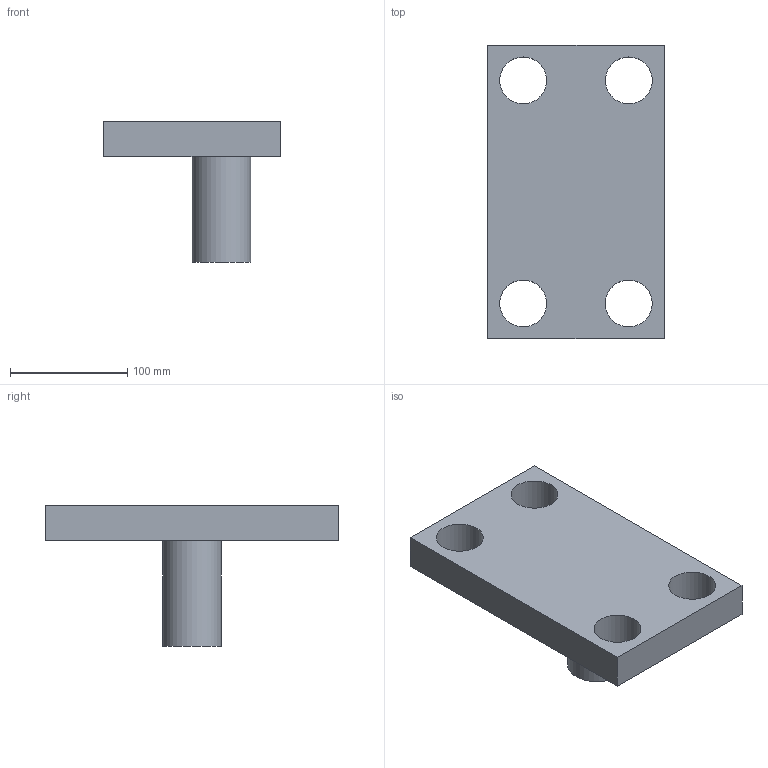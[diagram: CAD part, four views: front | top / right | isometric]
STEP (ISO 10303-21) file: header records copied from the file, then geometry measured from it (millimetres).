
FILE_DESCRIPTION(/* description */ (''),/* implementation_level */ '2;1');
FILE_NAME(/* name */ 'Top-plate',/* time_stamp */ '2005-04-08T17:19:43+06:00',/* author */ (''),/* organization */ (''),/* preprocessor_version */ 'ST-DEVELOPER v9',/* originating_system */ 'UGS - NX 3.0',/* authorisation */ '');
FILE_SCHEMA (('CONFIG_CONTROL_DESIGN'));
Length unit declared in the file: millimetre
Products named in the file (1): CADCF329m9nh
Bounding box: 150 x 250 x 120 mm (x, y, z)
Volume: 1150918.1 mm3; surface area: 118163.7 mm2
Topology: 1 solids, 1 shells, 12 faces, 28 edges, 19 vertices
Faces by surface type: plane 7, cylinder 5
Full cylindrical faces by diameter (mm): 40 x4, 50 x1
Entity records: 418 total; most frequent: DIRECTION 58, CARTESIAN_POINT 53, ORIENTED_EDGE 44, EDGE_LOOP 26, AXIS2_PLACEMENT_3D 23, EDGE_CURVE 22, FACE_BOUND 19, VERTEX_POINT 18
